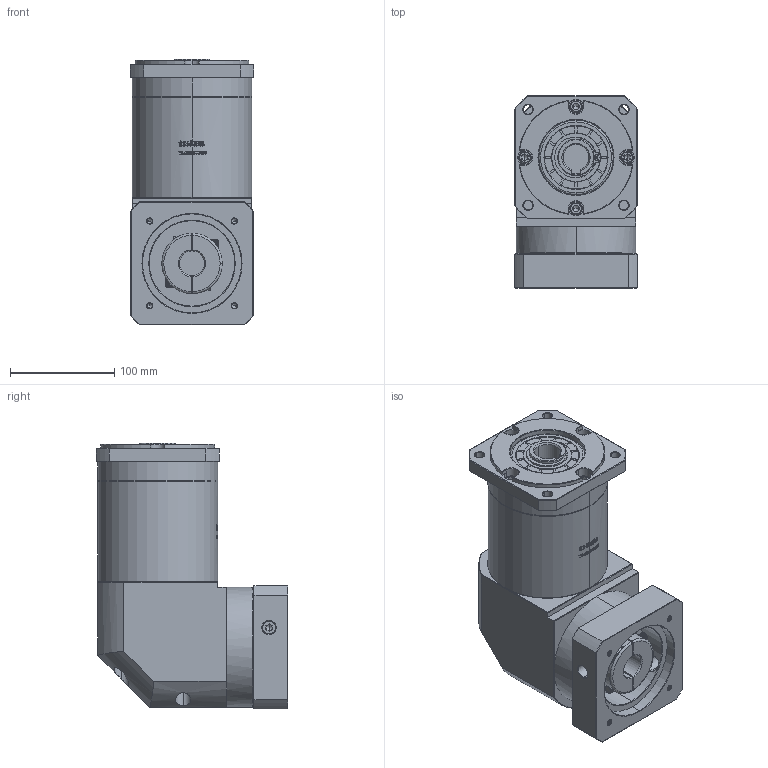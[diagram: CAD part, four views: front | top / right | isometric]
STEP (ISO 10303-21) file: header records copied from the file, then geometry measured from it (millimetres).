
FILE_DESCRIPTION (( 'STEP AP214' ), '1' );
FILE_NAME ('ZFR120A-K25-L3-24-95-115-M6.step', '2023-03-08T08:34:04', ( '' ), ( '' ), 'SwSTEP 2.0', 'SolidWorks 2016', '' );
FILE_SCHEMA (( 'AUTOMOTIVE_DESIGN' ));
Length unit declared in the file: millimetre
Products named in the file (1): ZFR120A-K25-L3-24-95-115-M6
Bounding box: 118 x 183.9 x 255 mm (x, y, z)
Volume: 3343502.9 mm3; surface area: 254084.1 mm2
Topology: 6 solids, 6 shells, 2801 faces, 7480 edges, 4823 vertices
Faces by surface type: plane 1476, bspline 601, cylinder 386, cone 330, torus 8
Entity records: 152659 total; most frequent: CARTESIAN_POINT 57576, ORIENTED_EDGE 14904, DIRECTION 10859, EDGE_CURVE 7452, VERTEX_POINT 4823, LINE 4675, VECTOR 4675, AXIS2_PLACEMENT_3D 3092
